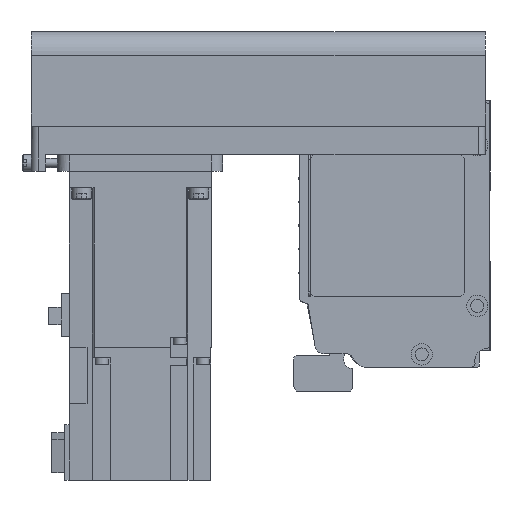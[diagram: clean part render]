
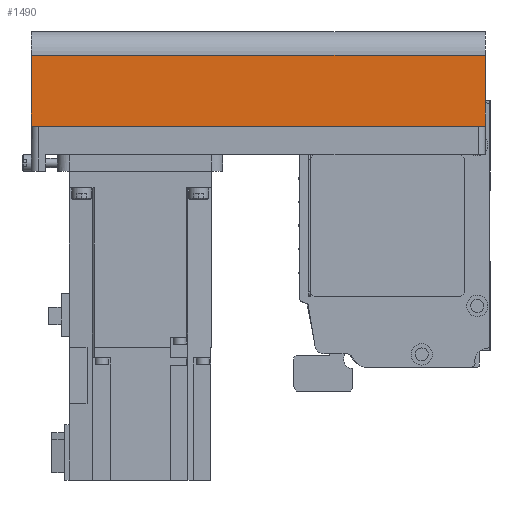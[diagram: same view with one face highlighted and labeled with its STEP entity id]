
A CAD part, left-side view. The second image highlights one B-rep face of the part: STEP entity #1490.
In plain terms, the highlighted planar face has unit normal (-1, 0, 0) as drawn and (0, 1, 0) by its records, which use the part's own axes.
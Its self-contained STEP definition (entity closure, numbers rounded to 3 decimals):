
#1490 = ADVANCED_FACE( '', ( #3372 ), #3373, .T. );
#3372 = FACE_OUTER_BOUND( '', #5740, .T. );
#3373 = PLANE( '', #5741 );
#5740 = EDGE_LOOP( '', ( #9732, #9733, #9734, #9735 ) );
#5741 = AXIS2_PLACEMENT_3D( '', #9736, #9737, #9738 );
#9732 = ORIENTED_EDGE( '', *, *, #14897, .F. );
#9733 = ORIENTED_EDGE( '', *, *, #14731, .F. );
#9734 = ORIENTED_EDGE( '', *, *, #14898, .T. );
#9735 = ORIENTED_EDGE( '', *, *, #14522, .T. );
#9736 = CARTESIAN_POINT( '', ( -192., 40., -42. ) );
#9737 = DIRECTION( '', ( 0., 1., 0. ) );
#9738 = DIRECTION( '', ( 0., 0., 1. ) );
#14522 = EDGE_CURVE( '', #17719, #17726, #17727, .T. );
#14731 = EDGE_CURVE( '', #18049, #18045, #18051, .T. );
#14897 = EDGE_CURVE( '', #18045, #17726, #18287, .T. );
#14898 = EDGE_CURVE( '', #18049, #17719, #18288, .T. );
#17719 = VERTEX_POINT( '', #21963 );
#17726 = VERTEX_POINT( '', #21974 );
#17727 = LINE( '', #21975, #21976 );
#18045 = VERTEX_POINT( '', #22392 );
#18049 = VERTEX_POINT( '', #22397 );
#18051 = LINE( '', #22399, #22400 );
#18287 = LINE( '', #22718, #22719 );
#18288 = LINE( '', #22720, #22721 );
#21963 = CARTESIAN_POINT( '', ( -192., 40., -12.1 ) );
#21974 = CARTESIAN_POINT( '', ( 0., 40., -12.1 ) );
#21975 = CARTESIAN_POINT( '', ( -192., 40., -12.1 ) );
#21976 = VECTOR( '', #25825, 1000. );
#22392 = CARTESIAN_POINT( '', ( 0., 40., -42. ) );
#22397 = CARTESIAN_POINT( '', ( -192., 40., -42. ) );
#22399 = CARTESIAN_POINT( '', ( -192., 40., -42. ) );
#22400 = VECTOR( '', #26102, 1000. );
#22718 = CARTESIAN_POINT( '', ( 0., 40., -42. ) );
#22719 = VECTOR( '', #26275, 1000. );
#22720 = CARTESIAN_POINT( '', ( -192., 40., -42. ) );
#22721 = VECTOR( '', #26276, 1000. );
#25825 = DIRECTION( '', ( 1., 0., 0. ) );
#26102 = DIRECTION( '', ( 1., 0., 0. ) );
#26275 = DIRECTION( '', ( 0., 0., 1. ) );
#26276 = DIRECTION( '', ( 0., 0., 1. ) );
